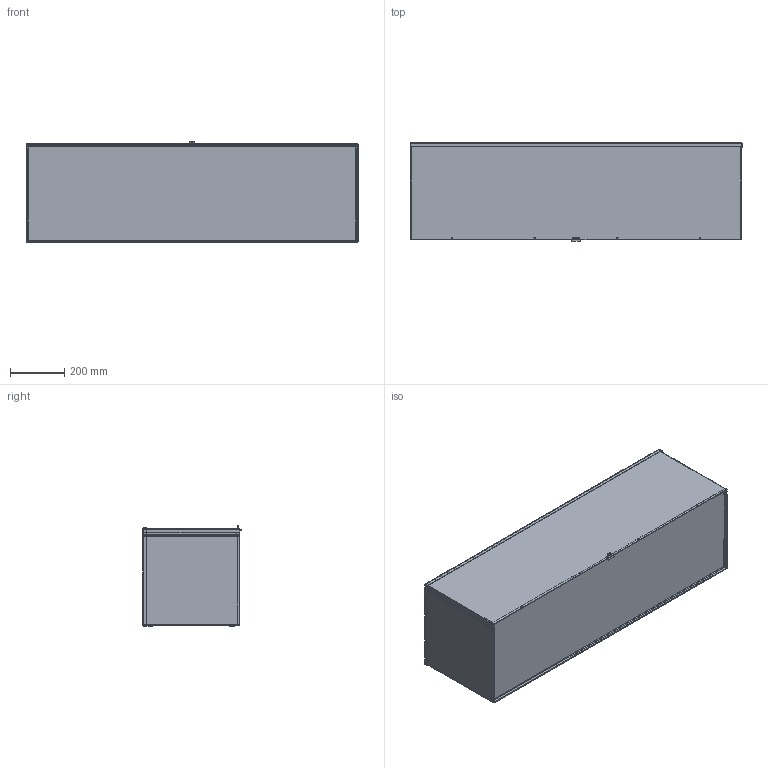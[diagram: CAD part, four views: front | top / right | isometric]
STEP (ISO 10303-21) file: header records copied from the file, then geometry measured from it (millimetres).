
FILE_DESCRIPTION((''),'2;1');
FILE_NAME('D:\scratch\ideas\3rt_assy_14x14x48.stp', '2006-01-03T08:40:25',('User'),('SDRC'),'I-DEAS Master Series 9','UNIX', 'Yes');
FILE_SCHEMA(('AUTOMOTIVE_DESIGN { 1 0 10303 214 0 1 1 1 }'));
Length unit declared in the file: inch
Products named in the file (6): 13845; 87780756; 87780700; 87780823; 87780646; 78124001
Assembly tree (5 placements, depth 2):
  13845
    87780756
    87780700
    87780823
    87780646
    78124001
Bounding box: 1223.72 x 363.92 x 373.2 mm (x, y, z)
Volume: 3804516 mm3; surface area: 4187833.2 mm2
Topology: 5 solids, 5 shells, 215 faces, 551 edges, 354 vertices
Faces by surface type: bspline 215
Entity records: 6926 total; most frequent: CARTESIAN_POINT 3342, ORIENTED_EDGE 1102, EDGE_CURVE 551, VERTEX_POINT 354, QUASI_UNIFORM_CURVE 315, EDGE_LOOP 253, FACE_OUTER_BOUND 215, ADVANCED_FACE 215
